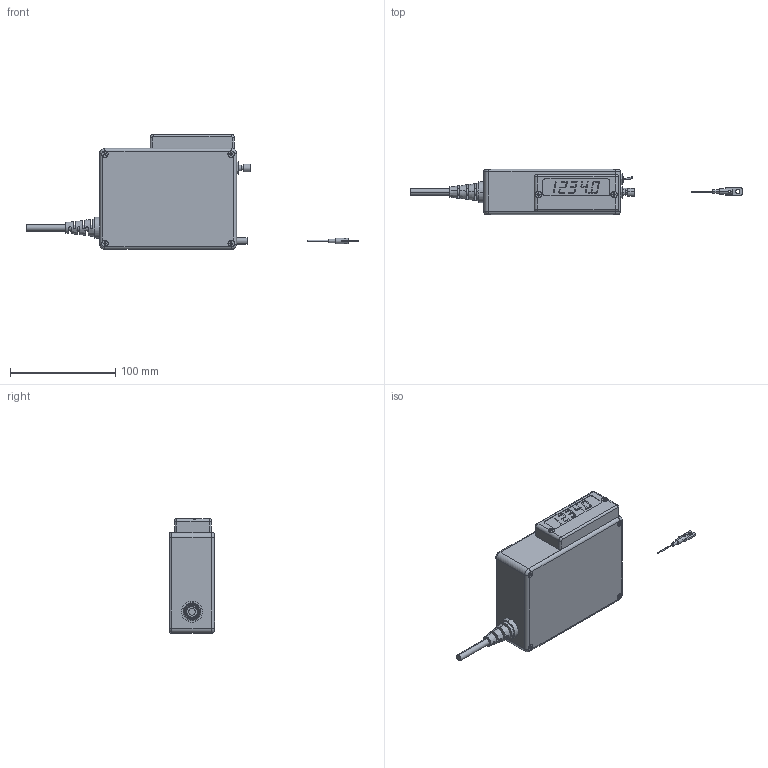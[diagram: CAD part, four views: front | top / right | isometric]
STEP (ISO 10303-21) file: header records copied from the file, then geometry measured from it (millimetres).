
FILE_DESCRIPTION (( 'STEP AP214' ), '1' );
FILE_NAME ('DMR100A_Assem1.STEP', '2024-08-20T01:05:48', ( '' ), ( '' ), 'SwSTEP 2.0', 'SolidWorks 2023', '' );
FILE_SCHEMA (( 'AUTOMOTIVE_DESIGN' ));
Length unit declared in the file: millimetre
Products named in the file (9): DMR100A_Part6; DMR100A_Part1; Flat Head SCREW M3 X6 MM; プッシュボタン_Part4; ナット_Part3; トルグスイッチ_Part5; DMR100A_Assem1; DMR100A_Part2; DMR100A_Assem0
Assembly tree (18 placements, depth 3):
  DMR100A_Assem1
    DMR100A_Assem0
      DMR100A_Part1
      トルグスイッチ_Part5
      ナット_Part3  x2
      プッシュボタン_Part4
      Flat Head SCREW M3 X6 MM  x10
      DMR100A_Part2
    DMR100A_Part6
Bounding box: 315.41 x 43 x 109 mm (x, y, z)
Volume: 574154 mm3; surface area: 78293.2 mm2
Topology: 17 solids, 17 shells, 674 faces, 1795 edges, 1212 vertices
Faces by surface type: plane 365, cylinder 167, cone 76, bspline 52, torus 14
Entity records: 15776 total; most frequent: CARTESIAN_POINT 3771, ORIENTED_EDGE 2444, DIRECTION 2393, EDGE_CURVE 1222, VECTOR 807, LINE 807, VERTEX_POINT 806, AXIS2_PLACEMENT_3D 793
